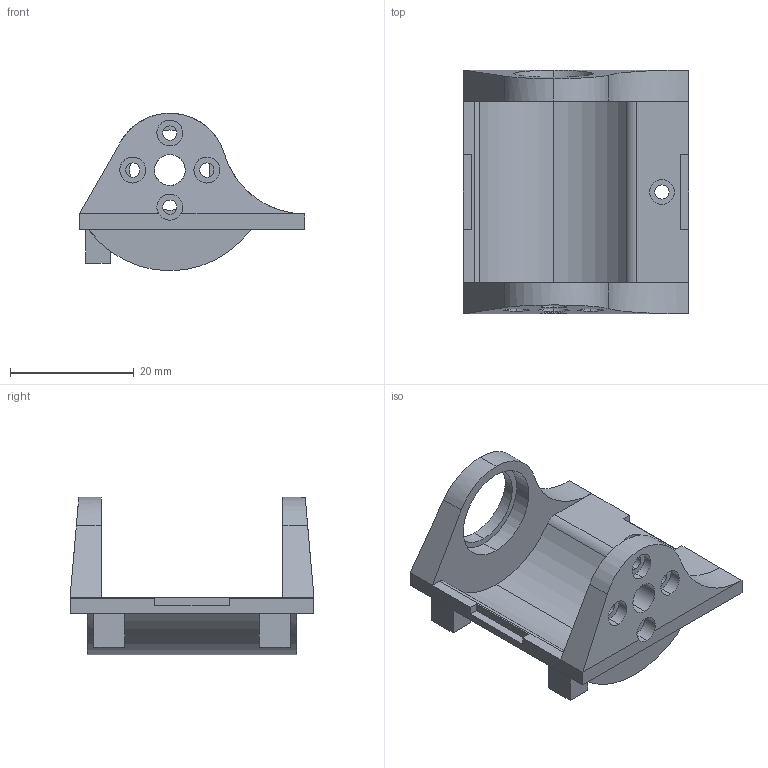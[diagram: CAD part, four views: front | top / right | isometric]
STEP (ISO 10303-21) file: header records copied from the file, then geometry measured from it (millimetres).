
FILE_DESCRIPTION (( 'STEP AP203' ), '1' );
FILE_NAME ('ankle_right褐灉衵1-FT.STEP', '2026-10-01T04:20:58', ( '' ), ( '' ), 'SwSTEP 2.0', 'SolidWorks 2021', '' );
FILE_SCHEMA (( 'CONFIG_CONTROL_DESIGN' ));
Length unit declared in the file: millimetre
Products named in the file (1): ankle_right褐灉衵1-FT
Bounding box: 36.52 x 39.5 x 25.5 mm (x, y, z)
Volume: 6115.8 mm3; surface area: 5692.9 mm2
Topology: 1 solids, 1 shells, 88 faces, 228 edges, 150 vertices
Faces by surface type: plane 49, cylinder 39
Entity records: 2796 total; most frequent: CARTESIAN_POINT 518, ORIENTED_EDGE 456, DIRECTION 456, EDGE_CURVE 228, AXIS2_PLACEMENT_3D 156, VERTEX_POINT 150, LINE 144, VECTOR 144
